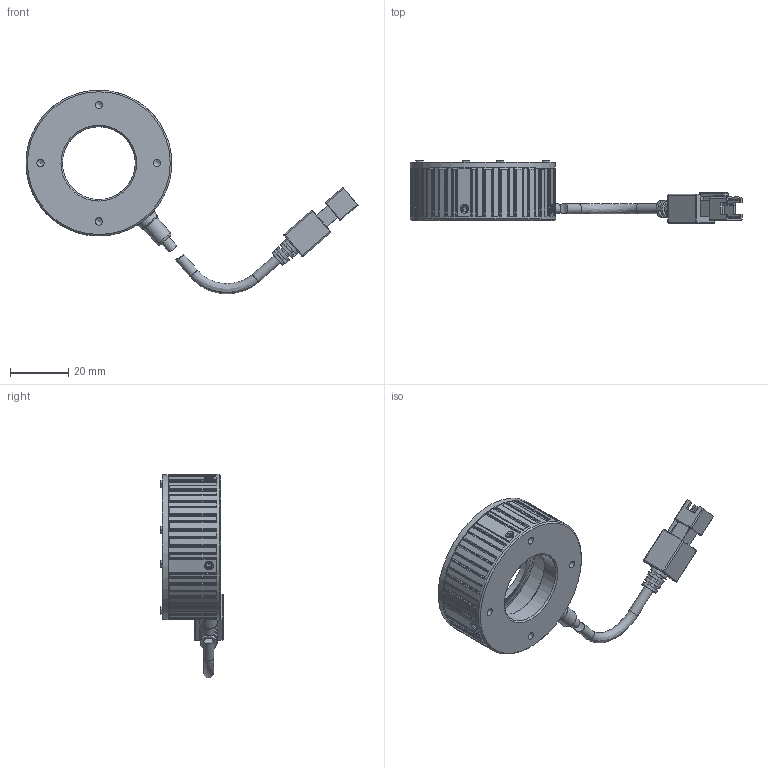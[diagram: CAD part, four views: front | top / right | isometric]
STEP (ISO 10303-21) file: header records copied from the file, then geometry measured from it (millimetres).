
FILE_DESCRIPTION (( 'STEP AP203' ), '1' );
FILE_NAME ('OPT-URI5030W-UV-V1.0U 尨砩芞.STEP', '2025-02-15T06:35:06', ( '' ), ( '' ), 'SwSTEP 2.0', 'SolidWorks 2016', '' );
FILE_SCHEMA (( 'CONFIG_CONTROL_DESIGN' ));
Length unit declared in the file: millimetre
Products named in the file (1): OPT-URI5030W-UV-V1.0U 尨砩芞
Bounding box: 113.95 x 21.4 x 69.81 mm (x, y, z)
Volume: 19913.8 mm3; surface area: 14837.5 mm2
Topology: 4 solids, 12 shells, 641 faces, 1693 edges, 1095 vertices
Faces by surface type: plane 322, cylinder 219, cone 69, bspline 31
Full cylindrical faces by diameter (mm): 1.1 x4, 1.4 x4, 1.8 x4, 2 x4, 2.2 x4, 2.5 x4, 2.6 x4, 3.5 x3, 5 x1, 6 x1, 7 x1, 25 x2, 26.8 x1, 42 x1, 46 x1, 50 x2
Entity records: 21578 total; most frequent: CARTESIAN_POINT 6662, ORIENTED_EDGE 3118, DIRECTION 2909, EDGE_CURVE 1559, AXIS2_PLACEMENT_3D 1046, VERTEX_POINT 1043, VECTOR 817, LINE 817
